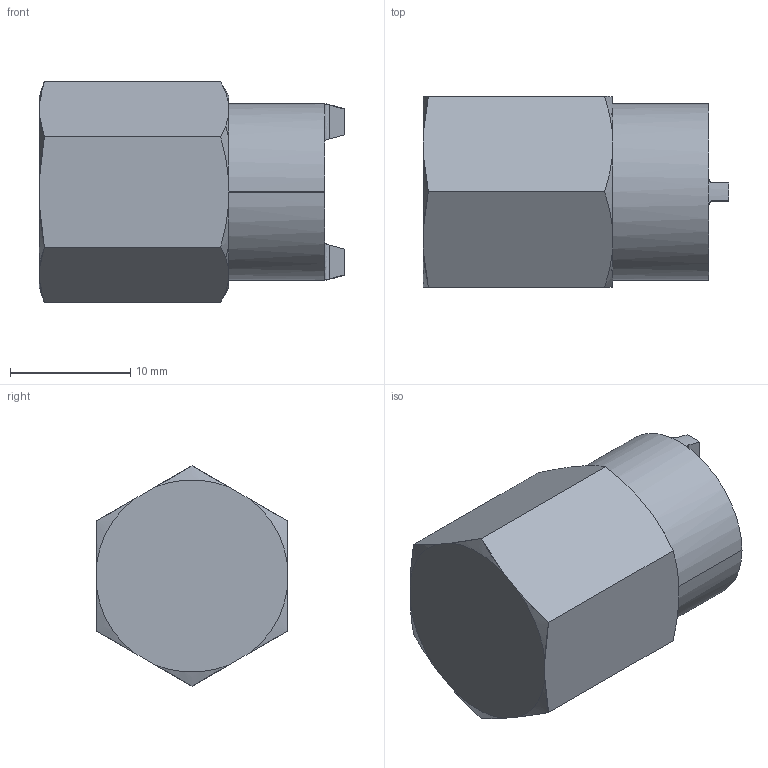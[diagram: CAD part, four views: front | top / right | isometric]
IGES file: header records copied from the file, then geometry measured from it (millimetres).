
Start section:  PTC IGES file: vw-62.igs
Global section: file name: vw-62.igs; native system: Pro/ENGINEER by Parametric Technology Corporation; preprocessor: 2002350; author: chant; organization: Unknown; date: 070702.164315; units: inch
Bounding box: 25.4 x 15.88 x 18.33 mm (x, y, z)
Surface area: 1986.8 mm2 (no closed solid volume)
Topology: 0 solids, 0 shells, 42 faces, 324 edges, 426 vertices
Faces by surface type: revolution 26, bspline 16
